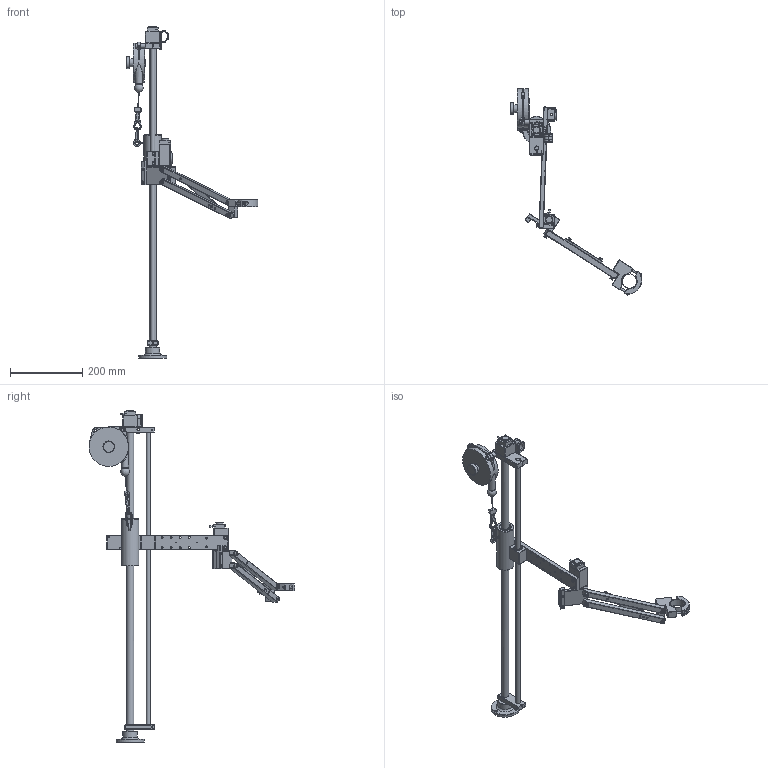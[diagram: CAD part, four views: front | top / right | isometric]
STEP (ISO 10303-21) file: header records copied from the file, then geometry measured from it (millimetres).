
FILE_DESCRIPTION( ( 'Unknown' ), '1' );
FILE_NAME( 'E:/0 Travail/0 Travaux en cours/Doga/Assemblage 2014/BIBLIOTEQUE 3D/Industrie 2008/08-52-3387 DOGA BA25 R DPA/4-1200472_bras BA 25 RPC/4-1200472_bras BA 25 RPC.stp', 'Unknown', ( 'Unknown' ), ( 'Unknown' ), 'PSStep 14.0', 'Unknown', ' ' );
FILE_SCHEMA( ( 'AUTOMOTIVE_DESIGN { 1 0 10303 214 1 1 1 1 }' ) );
Length unit declared in the file: millimetre
Products named in the file (49): Assemblage du pied BA25 R DPA; Platine fixation fourreau pour BA25R DPA; Platine fixation N°2 - BA25R DPA; Axe Ø20 x 800 - BA25R DPA; Pied de BA25; Axe Ø12- BA25R DPA; Aimant; Asm avant bras -22,5; CHC M6x30; 16 Z; Règle immobilisatrice; Carré inférieur ; Pivot 1 BA25R; Carré supérieur  ; CHC M6x20; Platine 2; Barrette; Pince BA25R; CHC M6x45 fileté sous tete; CHC M6x45 fileté sous tete-oa0; Placement'; pince BA25R; Collier; Assem1; Piton M5; Fourreau BA25; Plaque support BA25R; FHC M5x20; Pivot N°2 - BA25R DPA; Douille KB20; Douille KB20-oa1; Capteur de position angulaire QUADRO-R; Capteur de position angulaire QUADRO-R-oa2; Butée à aiguilles AXK1226; Rondelle AS1226; Axe Ø16 DPA; Anneau élastique pour arbre 12; Pivot N°3 - BA25R DPA; Douille KB12; Roulement à aiguilles HK1212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
Assembly tree (65 placements, depth 3):
  Assem1
    Piton M5
    Fourreau BA25
    Plaque support BA25R
    FHC M5x20  x4
    Pivot N°2 - BA25R DPA
    CHC M6x30  x2
    Douille KB20
    Douille KB20-oa1
    Capteur de position angulaire QUADRO-R
    Capteur de position angulaire QUADRO-R-oa2
    Butée à aiguilles AXK1226  x2
    Rondelle AS1226  x4
    Aimant
    Axe Ø16 DPA
    Anneau élastique pour arbre 12  x2
    Pivot N°3 - BA25R DPA
    Douille KB12
    Roulement à aiguilles HK1212  x2
    fourreau supérieur pour BA25R DPA
    Boitier de dérivation
    Roulement à aiguilles HK1616  x2
    CHC M8x50
    Equilibreur 0,4 - 3 Kg
    Entretoise
    Cable petit équilibreur
    Collier larg 20
    Collier larg 20
    Pince BA25R
      CHC M6x45 fileté sous tete
      CHC M6x45 fileté sous tete-oa0
      Placement'
      pince BA25R
      Collier
    Assemblage du pied BA25 R DPA
      Platine fixation fourreau pour BA25R DPA
      Platine fixation N°2 - BA25R DPA
      Axe Ø20 x 800 - BA25R DPA
      Pied de BA25
      Axe Ø12- BA25R DPA
      Aimant
    Asm avant bras -22,5
      CHC M6x30  x4
      16 Z
      Règle immobilisatrice
      Carré inférieur 
      Pivot 1 BA25R
      Carré supérieur  
      CHC M6x20  x2
      Platine 2
      Barrette
Bounding box: 362.94 x 568.13 x 916 mm (x, y, z)
Volume: 1676455.3 mm3; surface area: 453966.9 mm2
Topology: 62 solids, 62 shells, 1609 faces, 3816 edges, 2383 vertices
Faces by surface type: plane 870, cylinder 588, cone 104, torus 36, sphere 8, bspline 3
Full cylindrical faces by diameter (mm): 1 x4, 2 x1, 2.459 x13, 2.5 x6, 3.2 x4, 3.242 x12, 3.5 x2, 4 x4, 4.134 x2, 4.2 x10, 4.3 x2, 4.5 x1, 4.917 x6, 4.918 x2, 5 x33, 5.5 x2, 5.8 x10, 6 x26, 6.5 x3, 6.647 x3, 6.8 x1, 7 x1, 7.8 x1, 8 x4, 8.5 x3, 9 x5, 10 x11, 11.5 x2, 12 x15, 13 x2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
Entity records: 44354 total; most frequent: CARTESIAN_POINT 8440, DIRECTION 5878, ORIENTED_EDGE 5080, EDGE_CURVE 2540, AXIS2_PLACEMENT_3D 2209, EDGE_LOOP 1847, VERTEX_POINT 1742, FACE_OUTER_BOUND 1494
